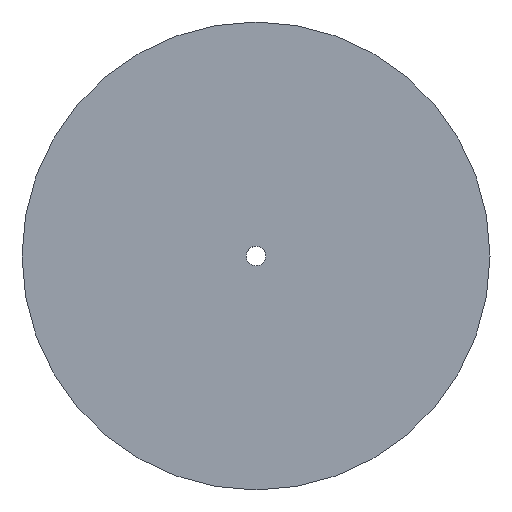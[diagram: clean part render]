
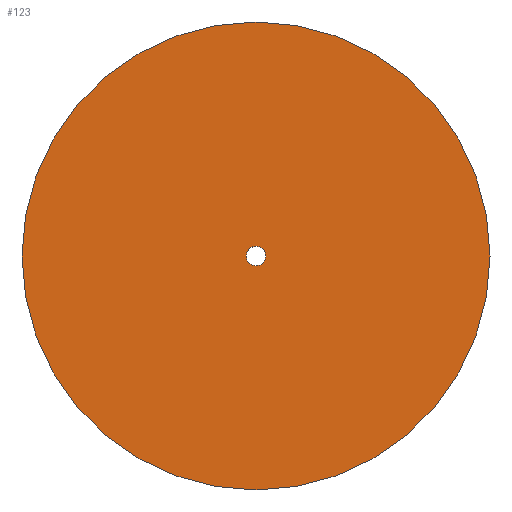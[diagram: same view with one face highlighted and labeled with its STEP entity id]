
A CAD part, top view. The second image highlights one B-rep face of the part: STEP entity #123.
In plain terms, the highlighted planar face has unit normal (0, 0, 1).
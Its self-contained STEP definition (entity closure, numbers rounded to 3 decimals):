
#62=CARTESIAN_POINT('Vertex',(-2.852,1.558,0.)) ;
#76=CARTESIAN_POINT('Vertex',(2.852,-1.558,0.)) ;
#79=CARTESIAN_POINT('Axis2P3D Location',(0.,0.,0.)) ;
#91=CARTESIAN_POINT('Axis2P3D Location',(0.,0.,0.)) ;
#96=CARTESIAN_POINT('Axis2P3D Location',(0.,0.,0.)) ;
#100=CARTESIAN_POINT('Vertex',(78.,0.,0.)) ;
#102=CARTESIAN_POINT('Vertex',(-78.,0.,0.)) ;
#105=CARTESIAN_POINT('Axis2P3D Location',(0.,0.,0.)) ;
#114=CARTESIAN_POINT('Axis2P3D Location',(0.,0.,0.)) ;
#80=DIRECTION('Axis2P3D Direction',(0.,-0.,-1.)) ;
#92=DIRECTION('Axis2P3D Direction',(0.,0.,1.)) ;
#93=DIRECTION('Axis2P3D XDirection',(1.,0.,0.)) ;
#97=DIRECTION('Axis2P3D Direction',(0.,0.,1.)) ;
#106=DIRECTION('Axis2P3D Direction',(0.,0.,1.)) ;
#115=DIRECTION('Axis2P3D Direction',(0.,0.,1.)) ;
#81=AXIS2_PLACEMENT_3D('Circle Axis2P3D',#79,#80,$) ;
#94=AXIS2_PLACEMENT_3D('Plane Axis2P3D',#91,#92,#93) ;
#98=AXIS2_PLACEMENT_3D('Circle Axis2P3D',#96,#97,$) ;
#107=AXIS2_PLACEMENT_3D('Circle Axis2P3D',#105,#106,$) ;
#116=AXIS2_PLACEMENT_3D('Circle Axis2P3D',#114,#115,$) ;
#111=ORIENTED_EDGE('',*,*,#104,.F.) ;
#112=ORIENTED_EDGE('',*,*,#109,.F.) ;
#120=ORIENTED_EDGE('',*,*,#118,.F.) ;
#121=ORIENTED_EDGE('',*,*,#83,.F.) ;
#122=FACE_BOUND('',#119,.T.) ;
#123=ADVANCED_FACE('PartBody',(#113,#122),#95,.T.) ;
#82=CIRCLE('generated circle',#81,3.25) ;
#99=CIRCLE('generated circle',#98,78.) ;
#108=CIRCLE('generated circle',#107,78.) ;
#117=CIRCLE('generated circle',#116,3.25) ;
#83=EDGE_CURVE('',#77,#63,#82,.F.) ;
#104=EDGE_CURVE('',#101,#103,#99,.F.) ;
#109=EDGE_CURVE('',#103,#101,#108,.F.) ;
#118=EDGE_CURVE('',#63,#77,#117,.T.) ;
#110=EDGE_LOOP('',(#111,#112)) ;
#119=EDGE_LOOP('',(#120,#121)) ;
#113=FACE_OUTER_BOUND('',#110,.T.) ;
#95=PLANE('',#94) ;
#63=VERTEX_POINT('',#62) ;
#77=VERTEX_POINT('',#76) ;
#101=VERTEX_POINT('',#100) ;
#103=VERTEX_POINT('',#102) ;
